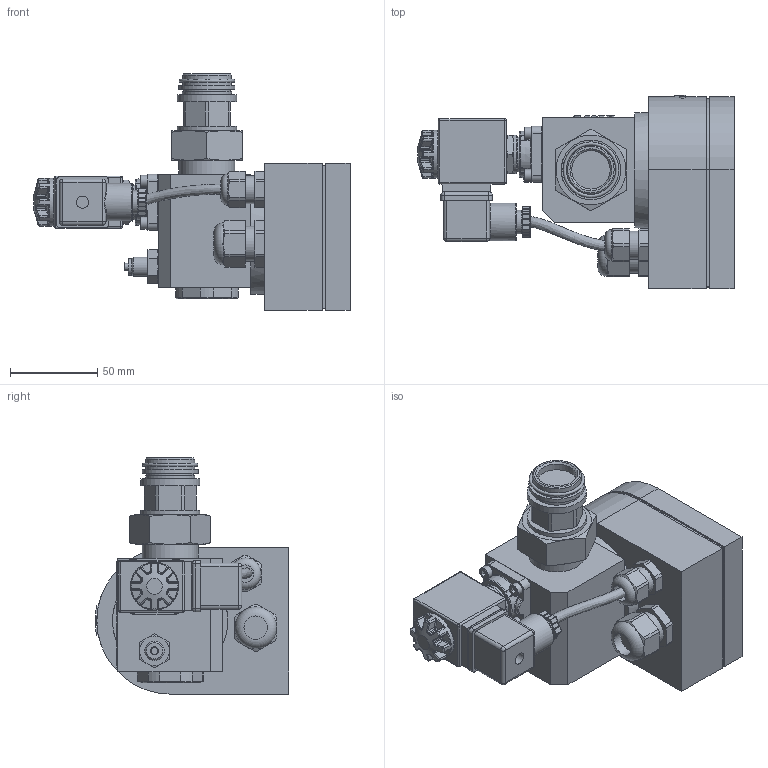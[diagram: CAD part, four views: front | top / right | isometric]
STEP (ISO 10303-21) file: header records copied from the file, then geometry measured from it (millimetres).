
FILE_DESCRIPTION(/* description */ (''),/* implementation_level */ '2;1');
FILE_NAME(/* name */ 'P:\ORE_ERM\ERM6-OC-R717\ERM6-OC-R717.stp',/* time_stamp */ '2019-03-01T11:02:25+01:00',/* author */ ('neufeld'),/* organization */ (''),/* preprocessor_version */ 'ST-DEVELOPER v17',/* originating_system */ 'Autodesk Inventor 2019',/* authorisation */ '');
FILE_SCHEMA (('AUTOMOTIVE_DESIGN { 1 0 10303 214 3 1 1 }'));
Products named in the file (1): ERM6-OC-R717_AG-Kunde
Bounding box: 181.11 x 111 x 135.3 mm (x, y, z)
Volume: 820332.8 mm3; surface area: 84918 mm2
Topology: 3 solids, 3 shells, 2004 faces, 5149 edges, 3305 vertices
Faces by surface type: plane 952, bspline 581, cylinder 244, torus 113, cone 62, sphere 52
Full cylindrical faces by diameter (mm): 4 x1, 7 x5, 9.1 x1, 9.4 x1, 10 x1, 10.5 x1, 11.112 x1, 13.5 x2, 16 x1, 20 x2, 20.5 x1, 21.5 x1, 22 x2, 24.2 x1, 26.6 x1, 27.5 x1, 28 x1, 28.2 x1, 28.81 x1, 32 x1, 32.15 x1, 34 x2, 34.1 x1, 66 x1
Entity records: 76884 total; most frequent: CARTESIAN_POINT 30999, ORIENTED_EDGE 10284, DIRECTION 7644, EDGE_CURVE 5142, VERTEX_POINT 3288, LINE 2908, VECTOR 2908, AXIS2_PLACEMENT_3D 2368
